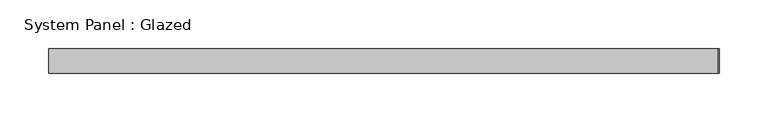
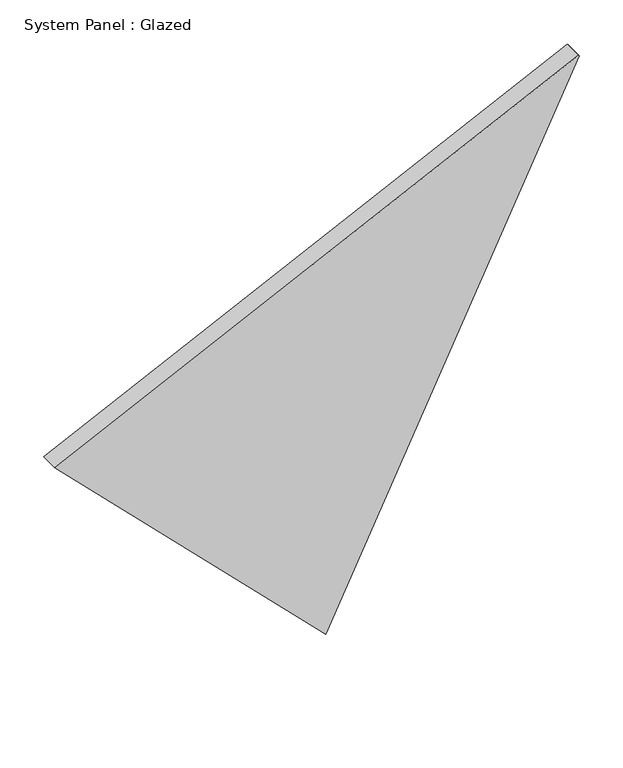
"""IFC4 building model written with IfcOpenShell, lengths in millimetres: plate geometry, System Panel : Glazed."""

import ifcopenshell
import ifcopenshell.guid

model = None  # the IFC model being written
_history = None  # IfcOwnerHistory: only IFC2X3 demands one
_inside = {}  # id of a spatial element -> (the spatial element, [elements in it])
_under = {}  # id of a project, library or spatial element -> (it, [spatial elements below it])
_declared = {}  # id of a project -> (the project, [libraries it declares])
_typed = {}  # id of a type object -> (the type object, [elements of that type])
_made_of = {}  # id of a material, layer set ... -> (it, [elements and type objects made of it])


def new_model(schema):
    """Start an empty IFC model of exactly this schema.

    Asked for "IFC4X3", IfcOpenShell would pick the latest addendum, in which some entities
    have other attributes; the version numbers below select the first issue.
    IFC2X3 requires an IfcOwnerHistory on every rooted entity: one is made here for all.
    """
    global model, _history
    if schema == "IFC4X3":
        model = ifcopenshell.file(schema_version=(4, 3, 0, 0))
    else:
        model = ifcopenshell.file(schema=schema)
    _inside.clear()
    _under.clear()
    _declared.clear()
    _typed.clear()
    _made_of.clear()
    _history = None
    if model.schema == "IFC2X3":
        org = make("IfcOrganization", Name="unknown")
        user = make(
            "IfcPersonAndOrganization",
            ThePerson=make("IfcPerson", FamilyName="unknown"),
            TheOrganization=org,
        )
        app = make(
            "IfcApplication",
            ApplicationDeveloper=org,
            Version="unknown",
            ApplicationFullName="unknown",
            ApplicationIdentifier="unknown",
        )
        _history = make(
            "IfcOwnerHistory",
            OwningUser=user,
            OwningApplication=app,
            ChangeAction="ADDED",
            CreationDate=0,
        )
    return model


def make(cls, **values):
    """One entity of the class cls with the attributes given. An attribute that is None is left unset."""
    return model.create_entity(
        cls, **{name: value for name, value in values.items() if value is not None}
    )


def rooted(cls, **values):
    """An entity with a GlobalId (a new one), such as an element, a storey or a relation."""
    return make(cls, GlobalId=ifcopenshell.guid.new(), OwnerHistory=_history, **values)


def si_unit(unit_type, name, prefix=None):
    """IfcSIUnit, for example si_unit("LENGTHUNIT", "METRE", prefix="MILLI")."""
    return make("IfcSIUnit", UnitType=unit_type, Prefix=prefix, Name=name)


def assignment(units):
    """IfcUnitAssignment: the units of a project."""
    return None if units is None else make("IfcUnitAssignment", Units=units)


def point(xyz):
    """IfcCartesianPoint."""
    return None if xyz is None else make("IfcCartesianPoint", Coordinates=xyz)


def direction(xyz):
    """IfcDirection."""
    return None if xyz is None else make("IfcDirection", DirectionRatios=xyz)


def frame(location, z_axis=None, x_axis=None):
    """IfcAxis2Placement3D, a coordinate frame: its origin and axes. An axis left out is left unset."""
    return make(
        "IfcAxis2Placement3D",
        Location=point(location),
        Axis=direction(z_axis),
        RefDirection=direction(x_axis),
    )


def origin():
    """The frame at (0, 0, 0) with its axes left unset."""
    return frame((0.0, 0.0, 0.0))


def place(relative_to, where):
    """IfcLocalPlacement: puts the frame where relative to a parent placement (None: the world)."""
    return make(
        "IfcLocalPlacement", PlacementRelTo=relative_to, RelativePlacement=where
    )


def context(
    kind, dimensions, precision=None, world=None, true_north=None, identifier=None
):
    """IfcGeometricRepresentationContext, for example the 3D "Model" context."""
    return make(
        "IfcGeometricRepresentationContext",
        ContextIdentifier=identifier,
        ContextType=kind,
        CoordinateSpaceDimension=dimensions,
        Precision=precision,
        WorldCoordinateSystem=world,
        TrueNorth=true_north,
    )


def project(units=None, contexts=None):
    """IfcProject with its units and contexts."""
    return rooted(
        "IfcProject",
        Name="project",
        RepresentationContexts=contexts,
        UnitsInContext=assignment(units),
    )


def spatial(cls, under=None, at=None, **own):
    """A site, building, storey or space (cls), placed at a placement, below another one or the project."""
    s = rooted(cls, ObjectPlacement=at, **own)
    if under is not None:
        _under.setdefault(under.id(), (under, []))[1].append(s)
    return s


def polyline(points):
    """IfcPolyline through the points."""
    return make("IfcPolyline", Points=[point(p) for p in points])


def outline(outer, holes=None, kind="AREA"):
    """IfcArbitraryClosedProfileDef: a profile drawn as a closed curve; with holes, ...WithVoids."""
    if holes is None:
        return make("IfcArbitraryClosedProfileDef", ProfileType=kind, OuterCurve=outer)
    return make(
        "IfcArbitraryProfileDefWithVoids",
        ProfileType=kind,
        OuterCurve=outer,
        InnerCurves=holes,
    )


def extrude(swept, where, along, depth):
    """IfcExtrudedAreaSolid: the profile swept, set in the frame where, extruded along a direction by depth."""
    return make(
        "IfcExtrudedAreaSolid",
        SweptArea=swept,
        Position=where,
        ExtrudedDirection=direction(along),
        Depth=depth,
    )


def shape(context_of_items, identifier, shape_type, items):
    """IfcShapeRepresentation: the items that make up one representation, for example the "Body"."""
    return make(
        "IfcShapeRepresentation",
        ContextOfItems=context_of_items,
        RepresentationIdentifier=identifier,
        RepresentationType=shape_type,
        Items=items,
    )


def source(mapping_origin, context_of_items, identifier, shape_type, items):
    """IfcRepresentationMap: a shape defined once, which mapped items show again and again."""
    return make(
        "IfcRepresentationMap",
        MappingOrigin=mapping_origin,
        MappedRepresentation=shape(context_of_items, identifier, shape_type, items),
    )


def transform(
    local_origin,
    x_axis=None,
    y_axis=None,
    z_axis=None,
    scale=None,
    scale2=None,
    scale3=None,
    uniform=True,
):
    """IfcCartesianTransformationOperator3D, or its non-uniform kind. x_axis, y_axis, z_axis: its Axis1, 2, 3."""
    if uniform:
        return make(
            "IfcCartesianTransformationOperator3D",
            Axis1=direction(x_axis),
            Axis2=direction(y_axis),
            LocalOrigin=point(local_origin),
            Scale=scale,
            Axis3=direction(z_axis),
        )
    return make(
        "IfcCartesianTransformationOperator3DnonUniform",
        Axis1=direction(x_axis),
        Axis2=direction(y_axis),
        LocalOrigin=point(local_origin),
        Scale=scale,
        Axis3=direction(z_axis),
        Scale2=scale2,
        Scale3=scale3,
    )


def mapped(mapping_source, mapping_target):
    """IfcMappedItem: shows the shape of a source again, moved by a transform."""
    return make(
        "IfcMappedItem", MappingSource=mapping_source, MappingTarget=mapping_target
    )


def made_of(thing, what):
    """Note that an element or type object is made of a material, layer set ...; save() writes the relation."""
    if what is not None:
        _made_of.setdefault(what.id(), (what, []))[1].append(thing)
    return thing


def element(
    cls,
    number,
    at=None,
    inside=None,
    cuts=None,
    type_object=None,
    material=None,
    context=None,
    identifier="Body",
    shape_type=None,
    held_by="IfcProductDefinitionShape",
    body=None,
    shapes=None,
    **own,
):
    """One element of the class cls, such as IfcWall. Its Tag is "e" and its number.

    at: its placement. inside: the storey or other place that contains it. cuts: it is an
    opening in that element (IfcRelVoidsElement). A single representation is given by context,
    identifier, shape_type and body (its items); several are given by shapes. held_by: the class
    of the entity that holds the representations. save() writes the other relations.
    """
    e = rooted(cls, Tag="e%d" % number, ObjectPlacement=at, **own)
    if body is not None:
        shapes = [shape(context, identifier, shape_type, body)]
    if shapes is not None:
        e.Representation = make(held_by, Representations=shapes)
    if inside is not None:
        _inside.setdefault(inside.id(), (inside, []))[1].append(e)
    if cuts is not None:
        rooted(
            "IfcRelVoidsElement", RelatingBuildingElement=cuts, RelatedOpeningElement=e
        )
    if type_object is not None:
        _typed.setdefault(type_object.id(), (type_object, []))[1].append(e)
    return made_of(e, material)


def aggregate(whole, parts):
    """IfcRelAggregates: a whole, such as a stair, and the parts it consists of."""
    return rooted("IfcRelAggregates", RelatingObject=whole, RelatedObjects=parts)


def save(model, path):
    """Write the relations noted so far, then the file.

    IfcRelAggregates (storeys below a building ...), IfcRelContainedInSpatialStructure (elements
    in a storey), IfcRelDefinesByType, IfcRelAssociatesMaterial and IfcRelDeclares: one each for
    every whole, place, type object, material and project.
    """
    for whole, parts in _under.values():
        aggregate(whole, parts)
    for where, things in _inside.values():
        rooted(
            "IfcRelContainedInSpatialStructure",
            RelatedElements=things,
            RelatingStructure=where,
        )
    for kind, things in _typed.values():
        rooted("IfcRelDefinesByType", RelatedObjects=things, RelatingType=kind)
    for what, things in _made_of.values():
        rooted("IfcRelAssociatesMaterial", RelatedObjects=things, RelatingMaterial=what)
    for by, libraries in _declared.values():
        rooted("IfcRelDeclares", RelatingContext=by, RelatedDefinitions=libraries)
    model.write(path)


def system_panel_glazed_12698f83(model_context):
    return source(origin(), model_context, "Body", "SweptSolid", [
        extrude(outline(polyline([(356.000513, -344.0218523), (0.0, 11.8201387), (686.7107457, 344.0218523), (687.896343, 342.836783), (356.000513, -344.0218523)])), frame((0.0, -49.5, 0.0), z_axis=(0.0, 1.0, 0.0), x_axis=(0.0, 0.0, 1.0)), (0.0, 0.0, 1.0), 25.0),
    ])


if __name__ == "__main__":
    model = new_model("IFC4")
    model_context = context("Model", 3, world=origin())
    ifc_project = project(units=[si_unit("LENGTHUNIT", "METRE", prefix="MILLI")], contexts=[model_context])
    site = spatial("IfcSite", under=ifc_project)
    building = spatial("IfcBuilding", under=site)
    placement = place(None, origin())
    system_panel_glazed_shape = system_panel_glazed_12698f83(model_context)
    element("IfcPlate", 1, ObjectType="System Panel : Glazed", at=placement, inside=building, context=model_context, shape_type="MappedRepresentation", body=[
        mapped(system_panel_glazed_shape, transform((0.0, 0.0, 0.0), x_axis=(1.0, 0.0, 0.0), y_axis=(0.0, 1.0, 0.0), z_axis=(0.0, 0.0, 1.0))),
    ])
    save(model, "model.ifc")
